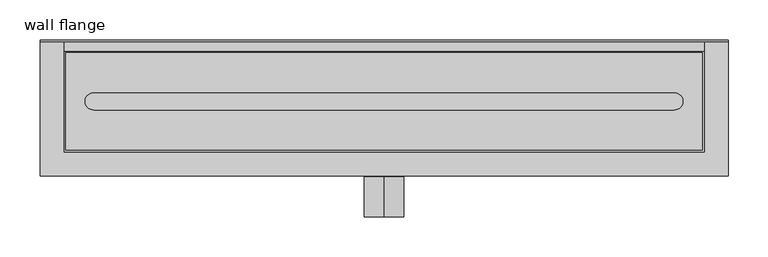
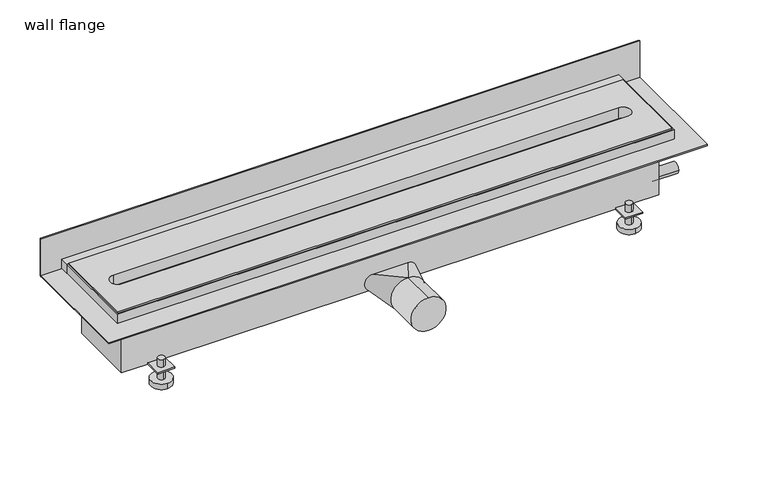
"""IFC4 building model written with IfcOpenShell, lengths in millimetres: sanitary terminal geometry, PF_ST_UN_ShowerDrain X_ACO : wall flange."""

from ifc_helpers import new_model, si_unit, point, frame, frame_2d, origin, origin_with_axes, place, context, project, spatial, polyline, circle_curve, trimmed, segment, composite_curve, outline, extrude, faceted_brep, source, transform, mapped, element, save
from ifc_brep_helpers import plane_surface, cylinder_surface, spline_surface, advanced_brep


def wall_flange_3f105fa3(model_context):
    return source(origin(), model_context, "Body", "SolidModel", [
        advanced_brep(
        [(-336.0, 67.0, -73.0), (-336.0, 57.0, -73.0), (-336.0, 77.0, -111.0), (-336.0, 47.0, -111.0), (-336.0, 67.0, -103.0), (-336.0, 57.0, -103.0), (-336.0, 77.0, -103.0), (-336.0, 47.0, -103.0)],
        [
            (0, 1, circle_curve(frame((-336.0, 62.0, -73.0), z_axis=(0.0, 0.0, 1.0), x_axis=(0.0, -1.0, 0.0)), 5.0)),
            (1, 0, circle_curve(frame((-336.0, 62.0, -73.0), z_axis=(0.0, 0.0, 1.0), x_axis=(0.0, -1.0, 0.0)), 5.0)),
            (2, 3, circle_curve(frame((-336.0, 62.0, -111.0), z_axis=(0.0, 0.0, -1.0), x_axis=(0.0, -1.0, 0.0)), 15.0)),
            (3, 2, circle_curve(frame((-336.0, 62.0, -111.0), z_axis=(0.0, 0.0, -1.0), x_axis=(0.0, -1.0, 0.0)), 15.0)),
            (0, 4),
            (4, 5, circle_curve(frame((-336.0, 62.0, -103.0), z_axis=(0.0, 0.0, 1.0), x_axis=(0.0, -1.0, 0.0)), 5.0)),
            (5, 1),
            (5, 4, circle_curve(frame((-336.0, 62.0, -103.0), z_axis=(0.0, 0.0, 1.0), x_axis=(0.0, -1.0, 0.0)), 5.0)),
            (6, 7, circle_curve(frame((-336.0, 62.0, -103.0), z_axis=(0.0, 0.0, 1.0), x_axis=(0.0, -1.0, 0.0)), 15.0)),
            (7, 6, circle_curve(frame((-336.0, 62.0, -103.0), z_axis=(0.0, 0.0, 1.0), x_axis=(0.0, -1.0, 0.0)), 15.0)),
            (6, 2),
            (3, 7),
        ],
        [
            plane_surface(frame((-336.0, 57.0, -73.0), z_axis=(0.0, 0.0, 1.0), x_axis=(1.0, 0.0, 0.0))),
            plane_surface(frame((-336.0, 57.0, -111.0), z_axis=(0.0, 0.0, -1.0), x_axis=(-1.0, 0.0, 0.0))),
            cylinder_surface(frame((-336.0, 62.0, -111.0), z_axis=(0.0, 0.0, 1.0), x_axis=(0.0, -1.0, 0.0)), 5.0),
            plane_surface(frame((-336.0, 47.0, -103.0), z_axis=(0.0, 0.0, 1.0), x_axis=(1.0, 0.0, 0.0))),
            cylinder_surface(frame((-336.0, 62.0, -111.0), z_axis=(0.0, 0.0, 1.0), x_axis=(0.0, -1.0, 0.0)), 15.0),
        ],
        [
            (0, [[1, 2]]),
            (1, [[3, 4]]),
            (2, [[-1, 5, 6, 7]]),
            (2, [[-2, -7, 8, -5]]),
            (3, [[9, 10], [-6, -8]]),
            (4, [[-9, 11, -4, 12]]),
            (4, [[-10, -12, -3, -11]]),
        ],
    ),
        advanced_brep(
        [(-336.0, -56.5, -73.0), (-336.0, -66.5, -73.0), (-336.0, -46.5, -111.0), (-336.0, -76.5, -111.0), (-336.0, -56.5, -103.0), (-336.0, -66.5, -103.0), (-336.0, -46.5, -103.0), (-336.0, -76.5, -103.0)],
        [
            (0, 1, circle_curve(frame((-336.0, -61.5, -73.0), z_axis=(0.0, 0.0, 1.0), x_axis=(0.0, -1.0, 0.0)), 5.0)),
            (1, 0, circle_curve(frame((-336.0, -61.5, -73.0), z_axis=(0.0, 0.0, 1.0), x_axis=(0.0, -1.0, 0.0)), 5.0)),
            (2, 3, circle_curve(frame((-336.0, -61.5, -111.0), z_axis=(0.0, 0.0, -1.0), x_axis=(0.0, -1.0, 0.0)), 15.0)),
            (3, 2, circle_curve(frame((-336.0, -61.5, -111.0), z_axis=(0.0, 0.0, -1.0), x_axis=(0.0, -1.0, 0.0)), 15.0)),
            (0, 4),
            (4, 5, circle_curve(frame((-336.0, -61.5, -103.0), z_axis=(0.0, 0.0, 1.0), x_axis=(0.0, -1.0, 0.0)), 5.0)),
            (5, 1),
            (5, 4, circle_curve(frame((-336.0, -61.5, -103.0), z_axis=(0.0, 0.0, 1.0), x_axis=(0.0, -1.0, 0.0)), 5.0)),
            (6, 7, circle_curve(frame((-336.0, -61.5, -103.0), z_axis=(0.0, 0.0, 1.0), x_axis=(0.0, -1.0, 0.0)), 15.0)),
            (7, 6, circle_curve(frame((-336.0, -61.5, -103.0), z_axis=(0.0, 0.0, 1.0), x_axis=(0.0, -1.0, 0.0)), 15.0)),
            (6, 2),
            (3, 7),
        ],
        [
            plane_surface(frame((-336.0, 57.0, -73.0), z_axis=(0.0, 0.0, 1.0), x_axis=(1.0, 0.0, 0.0))),
            plane_surface(frame((-336.0, 57.0, -111.0), z_axis=(0.0, 0.0, -1.0), x_axis=(-1.0, 0.0, 0.0))),
            cylinder_surface(frame((-336.0, -61.5, -111.0), z_axis=(0.0, 0.0, 1.0), x_axis=(0.0, -1.0, 0.0)), 5.0),
            plane_surface(frame((-336.0, 47.0, -103.0), z_axis=(0.0, 0.0, 1.0), x_axis=(1.0, 0.0, 0.0))),
            cylinder_surface(frame((-336.0, -61.5, -111.0), z_axis=(0.0, 0.0, 1.0), x_axis=(0.0, -1.0, 0.0)), 15.0),
        ],
        [
            (0, [[1, 2]]),
            (1, [[3, 4]]),
            (2, [[-1, 5, 6, 7]]),
            (2, [[-2, -7, 8, -5]]),
            (3, [[9, 10], [-6, -8]]),
            (4, [[-9, 11, -4, 12]]),
            (4, [[-10, -12, -3, -11]]),
        ],
    ),
        advanced_brep(
        [(336.0, 67.0, -73.0), (336.0, 57.0, -73.0), (336.0, 77.0, -111.0), (336.0, 47.0, -111.0), (336.0, 67.0, -103.0), (336.0, 57.0, -103.0), (336.0, 77.0, -103.0), (336.0, 47.0, -103.0)],
        [
            (0, 1, circle_curve(frame((336.0, 62.0, -73.0), z_axis=(0.0, 0.0, 1.0), x_axis=(0.0, -1.0, 0.0)), 5.0)),
            (1, 0, circle_curve(frame((336.0, 62.0, -73.0), z_axis=(0.0, 0.0, 1.0), x_axis=(0.0, -1.0, 0.0)), 5.0)),
            (2, 3, circle_curve(frame((336.0, 62.0, -111.0), z_axis=(0.0, 0.0, -1.0), x_axis=(0.0, -1.0, 0.0)), 15.0)),
            (3, 2, circle_curve(frame((336.0, 62.0, -111.0), z_axis=(0.0, 0.0, -1.0), x_axis=(0.0, -1.0, 0.0)), 15.0)),
            (0, 4),
            (4, 5, circle_curve(frame((336.0, 62.0, -103.0), z_axis=(0.0, 0.0, 1.0), x_axis=(0.0, -1.0, 0.0)), 5.0)),
            (5, 1),
            (5, 4, circle_curve(frame((336.0, 62.0, -103.0), z_axis=(0.0, 0.0, 1.0), x_axis=(0.0, -1.0, 0.0)), 5.0)),
            (6, 7, circle_curve(frame((336.0, 62.0, -103.0), z_axis=(0.0, 0.0, 1.0), x_axis=(0.0, -1.0, 0.0)), 15.0)),
            (7, 6, circle_curve(frame((336.0, 62.0, -103.0), z_axis=(0.0, 0.0, 1.0), x_axis=(0.0, -1.0, 0.0)), 15.0)),
            (6, 2),
            (3, 7),
        ],
        [
            plane_surface(frame((-336.0, 57.0, -73.0), z_axis=(0.0, 0.0, 1.0), x_axis=(1.0, 0.0, 0.0))),
            plane_surface(frame((-336.0, 57.0, -111.0), z_axis=(0.0, 0.0, -1.0), x_axis=(-1.0, 0.0, 0.0))),
            cylinder_surface(frame((336.0, 62.0, -111.0), z_axis=(0.0, 0.0, 1.0), x_axis=(0.0, -1.0, 0.0)), 5.0),
            plane_surface(frame((-336.0, 47.0, -103.0), z_axis=(0.0, 0.0, 1.0), x_axis=(1.0, 0.0, 0.0))),
            cylinder_surface(frame((336.0, 62.0, -111.0), z_axis=(0.0, 0.0, 1.0), x_axis=(0.0, -1.0, 0.0)), 15.0),
        ],
        [
            (0, [[1, 2]]),
            (1, [[3, 4]]),
            (2, [[-1, 5, 6, 7]]),
            (2, [[-2, -7, 8, -5]]),
            (3, [[9, 10], [-6, -8]]),
            (4, [[-9, 11, -4, 12]]),
            (4, [[-10, -12, -3, -11]]),
        ],
    ),
        advanced_brep(
        [(336.0, -56.5, -73.0), (336.0, -66.5, -73.0), (336.0, -46.5, -111.0), (336.0, -76.5, -111.0), (336.0, -56.5, -103.0), (336.0, -66.5, -103.0), (336.0, -46.5, -103.0), (336.0, -76.5, -103.0)],
        [
            (0, 1, circle_curve(frame((336.0, -61.5, -73.0), z_axis=(0.0, 0.0, 1.0), x_axis=(0.0, -1.0, 0.0)), 5.0)),
            (1, 0, circle_curve(frame((336.0, -61.5, -73.0), z_axis=(0.0, 0.0, 1.0), x_axis=(0.0, -1.0, 0.0)), 5.0)),
            (2, 3, circle_curve(frame((336.0, -61.5, -111.0), z_axis=(0.0, 0.0, -1.0), x_axis=(0.0, -1.0, 0.0)), 15.0)),
            (3, 2, circle_curve(frame((336.0, -61.5, -111.0), z_axis=(0.0, 0.0, -1.0), x_axis=(0.0, -1.0, 0.0)), 15.0)),
            (0, 4),
            (4, 5, circle_curve(frame((336.0, -61.5, -103.0), z_axis=(0.0, 0.0, 1.0), x_axis=(0.0, -1.0, 0.0)), 5.0)),
            (5, 1),
            (5, 4, circle_curve(frame((336.0, -61.5, -103.0), z_axis=(0.0, 0.0, 1.0), x_axis=(0.0, -1.0, 0.0)), 5.0)),
            (6, 7, circle_curve(frame((336.0, -61.5, -103.0), z_axis=(0.0, 0.0, 1.0), x_axis=(0.0, -1.0, 0.0)), 15.0)),
            (7, 6, circle_curve(frame((336.0, -61.5, -103.0), z_axis=(0.0, 0.0, 1.0), x_axis=(0.0, -1.0, 0.0)), 15.0)),
            (6, 2),
            (3, 7),
        ],
        [
            plane_surface(frame((-336.0, 57.0, -73.0), z_axis=(0.0, 0.0, 1.0), x_axis=(1.0, 0.0, 0.0))),
            plane_surface(frame((-336.0, 57.0, -111.0), z_axis=(0.0, 0.0, -1.0), x_axis=(-1.0, 0.0, 0.0))),
            cylinder_surface(frame((336.0, -61.5, -111.0), z_axis=(0.0, 0.0, 1.0), x_axis=(0.0, -1.0, 0.0)), 5.0),
            plane_surface(frame((-336.0, 47.0, -103.0), z_axis=(0.0, 0.0, 1.0), x_axis=(1.0, 0.0, 0.0))),
            cylinder_surface(frame((336.0, -61.5, -111.0), z_axis=(0.0, 0.0, 1.0), x_axis=(0.0, -1.0, 0.0)), 15.0),
        ],
        [
            (0, [[1, 2]]),
            (1, [[3, 4]]),
            (2, [[-1, 5, 6, 7]]),
            (2, [[-2, -7, 8, -5]]),
            (3, [[9, 10], [-6, -8]]),
            (4, [[-9, 11, -4, 12]]),
            (4, [[-10, -12, -3, -11]]),
        ],
    ),
        extrude(outline(polyline([(400.0, 75.0), (400.0, 63.0), (-400.0, 63.0), (-400.0, 75.0), (400.0, 75.0)])), frame((0.0, 0.0, 2.0), z_axis=(0.0, 0.0, 1.0), x_axis=(1.0, 0.0, 0.0)), (0.0, 0.0, 1.0), 14.0),
        extrude(outline(polyline([(430.0, 75.0), (-430.0, 75.0), (-430.0, 77.0), (430.0, 77.0), (430.0, 75.0)])), origin_with_axes(), (0.0, 0.0, 1.0), 57.0),
        advanced_brep(
        [(386.0, 50.0, -86.0), (386.0, -49.0, -86.0), (348.5, -49.0, -86.0), (348.5, -74.0, -86.0), (323.5, -74.0, -86.0), (323.5, -49.0, -86.0), (-323.5, -49.0, -86.0), (-323.5, -74.0, -86.0), (-348.5, -74.0, -86.0), (-348.5, -49.0, -86.0), (-386.0, -49.0, -86.0), (-386.0, 50.0, -86.0), (-348.5, 50.0, -86.0), (-348.5, 74.0, -86.0), (-323.5, 74.0, -86.0), (-323.5, 50.0, -86.0), (323.5, 50.0, -86.0), (323.5, 74.0, -86.0), (348.5, 74.0, -86.0), (348.5, 50.0, -86.0), (386.0, 50.0, -8.0), (-386.0, 50.0, -8.0), (-386.0, -49.0, -8.0), (386.0, -49.0, -8.0), (348.5, 50.0, -84.0), (323.5, 50.0, -84.0), (-323.5, 50.0, -84.0), (-348.5, 50.0, -84.0), (-348.5, -49.0, -84.0), (-323.5, -49.0, -84.0), (323.5, -49.0, -84.0), (348.5, -49.0, -84.0), (386.0, -37.85, -68.0), (386.0, -22.15, -68.0), (386.0, 24.15, -32.0), (386.0, 39.85, -32.0), (421.0, -37.85, -68.0), (421.0, -22.15, -68.0), (421.0, 24.15, -32.0), (421.0, 39.85, -32.0), (-323.5, 74.0, -84.0), (-348.5, 74.0, -84.0), (348.5, 74.0, -84.0), (323.5, 74.0, -84.0), (348.5, -74.0, -84.0), (323.5, -74.0, -84.0), (-348.5, -74.0, -84.0), (-323.5, -74.0, -84.0)],
        [
            (0, 1),
            (1, 2),
            (2, 3),
            (3, 4),
            (4, 5),
            (5, 6),
            (6, 7),
            (7, 8),
            (8, 9),
            (9, 10),
            (10, 11),
            (11, 12),
            (12, 13),
            (13, 14),
            (14, 15),
            (15, 16),
            (16, 17),
            (17, 18),
            (18, 19),
            (19, 0),
            (20, 21),
            (21, 22),
            (22, 23),
            (23, 20),
            (20, 0),
            (19, 24),
            (24, 25),
            (25, 16),
            (15, 26),
            (26, 27),
            (27, 12),
            (11, 21),
            (10, 22),
            (9, 28),
            (28, 29),
            (29, 6),
            (5, 30),
            (30, 31),
            (31, 2),
            (1, 23),
            (32, 33, circle_curve(frame((386.0, -30.0, -68.0), z_axis=(-1.0, 0.0, 0.0), x_axis=(0.0, 1.0, 0.0)), 7.85)),
            (33, 32, circle_curve(frame((386.0, -30.0, -68.0), z_axis=(-1.0, 0.0, 0.0), x_axis=(0.0, 1.0, 0.0)), 7.85)),
            (34, 35, circle_curve(frame((386.0, 32.0, -32.0), z_axis=(-1.0, 0.0, 0.0), x_axis=(0.0, 1.0, 0.0)), 7.85)),
            (35, 34, circle_curve(frame((386.0, 32.0, -32.0), z_axis=(-1.0, 0.0, 0.0), x_axis=(0.0, 1.0, 0.0)), 7.85)),
            (36, 37, circle_curve(frame((421.0, -30.0, -68.0), z_axis=(1.0, 0.0, 0.0), x_axis=(0.0, 1.0, 0.0)), 7.85)),
            (37, 36, circle_curve(frame((421.0, -30.0, -68.0), z_axis=(1.0, 0.0, 0.0), x_axis=(0.0, 1.0, 0.0)), 7.85)),
            (37, 33),
            (32, 36),
            (38, 39, circle_curve(frame((421.0, 32.0, -32.0), z_axis=(1.0, 0.0, 0.0), x_axis=(0.0, 1.0, 0.0)), 7.85)),
            (39, 38, circle_curve(frame((421.0, 32.0, -32.0), z_axis=(1.0, 0.0, 0.0), x_axis=(0.0, 1.0, 0.0)), 7.85)),
            (39, 35),
            (34, 38),
            (40, 41),
            (41, 27),
            (26, 40),
            (42, 43),
            (43, 25),
            (24, 42),
            (44, 31),
            (30, 45),
            (45, 44),
            (46, 47),
            (47, 29),
            (28, 46),
            (40, 14),
            (13, 41),
            (42, 18),
            (17, 43),
            (44, 3),
            (4, 45),
            (46, 8),
            (7, 47),
        ],
        [
            plane_surface(frame((-386.0, 50.0, -86.0), z_axis=(0.0, 0.0, -1.0), x_axis=(1.0, 0.0, 0.0))),
            plane_surface(frame((-386.0, 50.0, -8.0), z_axis=(0.0, 0.0, 1.0), x_axis=(-1.0, 0.0, 0.0))),
            plane_surface(frame((386.0, 50.0, -8.0), z_axis=(0.0, 1.0, 0.0), x_axis=(0.0, 0.0, -1.0))),
            plane_surface(frame((-386.0, 50.0, -8.0), z_axis=(-1.0, 0.0, 0.0), x_axis=(0.0, 0.0, -1.0))),
            plane_surface(frame((-386.0, -49.0, -8.0), z_axis=(0.0, -1.0, 0.0), x_axis=(0.0, 0.0, -1.0))),
            plane_surface(frame((386.0, -49.0, -8.0), z_axis=(1.0, 0.0, 0.0), x_axis=(0.0, 0.0, -1.0))),
            plane_surface(frame((421.0, -30.0, -68.0), z_axis=(1.0, 0.0, 0.0), x_axis=(0.0, 0.0, 1.0))),
            cylinder_surface(frame((0.0, -30.0, -68.0), z_axis=(-1.0, 0.0, 0.0), x_axis=(0.0, 1.0, 0.0)), 7.85),
            plane_surface(frame((421.0, 32.0, -32.0), z_axis=(1.0, 0.0, 0.0), x_axis=(0.0, 0.0, 1.0))),
            cylinder_surface(frame((0.0, 32.0, -32.0), z_axis=(-1.0, 0.0, 0.0), x_axis=(0.0, 1.0, 0.0)), 7.85),
            plane_surface(frame((-348.5, 74.0, -84.0), z_axis=(0.0, 0.0, 1.0), x_axis=(-1.0, 0.0, 0.0))),
            plane_surface(frame((-323.5, 74.0, -84.0), z_axis=(0.0, 1.0, 0.0), x_axis=(0.0, 0.0, -1.0))),
            plane_surface(frame((-348.5, 74.0, -84.0), z_axis=(-1.0, 0.0, 0.0), x_axis=(0.0, 0.0, -1.0))),
            plane_surface(frame((-323.5, 50.0, -84.0), z_axis=(1.0, 0.0, 0.0), x_axis=(0.0, 0.0, -1.0))),
            plane_surface(frame((348.5, 74.0, -84.0), z_axis=(0.0, 1.0, 0.0), x_axis=(0.0, 0.0, -1.0))),
            plane_surface(frame((323.5, 74.0, -84.0), z_axis=(-1.0, 0.0, 0.0), x_axis=(0.0, 0.0, -1.0))),
            plane_surface(frame((348.5, 50.0, -84.0), z_axis=(1.0, 0.0, 0.0), x_axis=(0.0, 0.0, -1.0))),
            plane_surface(frame((348.5, -74.0, -84.0), z_axis=(1.0, 0.0, 0.0), x_axis=(0.0, 0.0, -1.0))),
            plane_surface(frame((323.5, -49.0, -84.0), z_axis=(-1.0, 0.0, 0.0), x_axis=(0.0, 0.0, -1.0))),
            plane_surface(frame((323.5, -74.0, -84.0), z_axis=(0.0, -1.0, 0.0), x_axis=(0.0, 0.0, -1.0))),
            plane_surface(frame((-348.5, -74.0, -84.0), z_axis=(0.0, -1.0, 0.0), x_axis=(0.0, 0.0, -1.0))),
            plane_surface(frame((-323.5, -74.0, -84.0), z_axis=(1.0, 0.0, 0.0), x_axis=(0.0, 0.0, -1.0))),
            plane_surface(frame((-348.5, -49.0, -84.0), z_axis=(-1.0, 0.0, 0.0), x_axis=(0.0, 0.0, -1.0))),
        ],
        [
            (0, [[1, 2, 3, 4, 5, 6, 7, 8, 9, 10, 11, 12, 13, 14, 15, 16, 17, 18, 19, 20]]),
            (1, [[21, 22, 23, 24]]),
            (2, [[-21, 25, -20, 26, 27, 28, -16, 29, 30, 31, -12, 32]]),
            (3, [[-11, 33, -22, -32]]),
            (4, [[-23, -33, -10, 34, 35, 36, -6, 37, 38, 39, -2, 40]]),
            (5, [[-1, -25, -24, -40], [41, 42], [43, 44]]),
            (6, [[45, 46]]),
            (7, [[-46, 47, -41, 48]]),
            (7, [[-45, -48, -42, -47]]),
            (8, [[49, 50]]),
            (9, [[-50, 51, -43, 52]]),
            (9, [[-49, -52, -44, -51]]),
            (10, [[53, 54, -30, 55]]),
            (10, [[56, 57, -27, 58]]),
            (10, [[59, -38, 60, 61]]),
            (10, [[62, 63, -35, 64]]),
            (11, [[-53, 65, -14, 66]]),
            (12, [[-54, -66, -13, -31]]),
            (13, [[-55, -29, -15, -65]]),
            (14, [[-56, 67, -18, 68]]),
            (15, [[-57, -68, -17, -28]]),
            (16, [[-58, -26, -19, -67]]),
            (17, [[-59, 69, -3, -39]]),
            (18, [[-60, -37, -5, 70]]),
            (19, [[-61, -70, -4, -69]]),
            (20, [[-62, 71, -8, 72]]),
            (21, [[-63, -72, -7, -36]]),
            (22, [[-64, -34, -9, -71]]),
        ],
    ),
        extrude(outline(polyline([(398.0, 61.0), (398.0, -61.0), (-398.0, -61.0), (-398.0, 61.0), (398.0, 61.0)]), holes=[composite_curve([segment(polyline([(363.0860312, 10.6770786), (-363.0900069, 10.6770786)]), True, "CONTINUOUS"), segment(trimmed(circle_curve(frame_2d((-363.0900069, 0.0)), 10.6770786), [point((-363.0900069, 10.6770786))], [point((-363.0900069, -10.6770786))], True, "CARTESIAN"), True, "CONTINUOUS"), segment(polyline([(-363.0900069, -10.6770786), (363.0860312, -10.6770786)]), True, "CONTINUOUS"), segment(trimmed(circle_curve(frame_2d((363.0860312, 0.0)), 10.6770786), [point((363.0860312, -10.6770786))], [point((363.0860312, 10.6770786))], True, "CARTESIAN"), True, "CONTINUOUS")], self_intersect=False)]), origin_with_axes(), (0.0, 0.0, 1.0), 18.0),
        advanced_brep(
        [(0.0, -144.5, -99.0), (0.0, -144.5, -49.0), (0.0, -94.5, -99.0), (13.0, -94.5, -95.3541565), (13.0005627, -94.5, -52.6461861), (0.0, -94.5, -49.0), (-13.0, -94.5, -52.6458435), (-13.0, -94.5, -95.3541565), (25.0, -50.0, -86.0), (-25.0, -50.0, -86.0), (-25.0, -50.0, -62.0), (25.0, -50.0, -62.0)],
        [
            (0, 1, circle_curve(frame((0.0, -144.5, -74.0), z_axis=(0.0, -1.0, 0.0), x_axis=(0.0, 0.0, 1.0)), 25.0)),
            (1, 0, circle_curve(frame((0.0, -144.5, -74.0), z_axis=(0.0, -1.0, 0.0), x_axis=(0.0, 0.0, 1.0)), 25.0)),
            (0, 2),
            (2, 3, circle_curve(frame((0.0, -94.5, -74.0), z_axis=(0.0, -1.0, 0.0), x_axis=(0.0, 0.0, 1.0)), 25.0)),
            (3, 4, circle_curve(frame((0.0, -94.5, -74.0), z_axis=(0.0, -1.0, 0.0), x_axis=(0.0, 0.0, 1.0)), 25.0)),
            (4, 5, circle_curve(frame((0.0, -94.5, -74.0), z_axis=(0.0, -1.0, 0.0), x_axis=(0.0, 0.0, 1.0)), 25.0)),
            (5, 1),
            (5, 6, circle_curve(frame((0.0, -94.5, -74.0), z_axis=(0.0, -1.0, 0.0), x_axis=(0.0, 0.0, 1.0)), 25.0)),
            (6, 7, circle_curve(frame((0.0, -94.5, -74.0), z_axis=(0.0, -1.0, 0.0), x_axis=(0.0, 0.0, 1.0)), 25.0)),
            (7, 2, circle_curve(frame((0.0, -94.5, -74.0), z_axis=(0.0, -1.0, 0.0), x_axis=(0.0, 0.0, 1.0)), 25.0)),
            (8, 9),
            (9, 10, circle_curve(frame((-25.0, -50.0, -74.0), z_axis=(0.0, 1.0, 0.0), x_axis=(0.0, 0.0, 1.0)), 12.0)),
            (10, 11),
            (11, 8, circle_curve(frame((25.0, -50.0, -74.0), z_axis=(0.0, 1.0, 0.0), x_axis=(0.0, 0.0, 1.0)), 12.0)),
            (8, 2),
            (2, 9),
            (5, 10),
            (5, 11),
        ],
        [
            plane_surface(frame((0.0, -144.5, -74.0), z_axis=(0.0, -1.0, 0.0), x_axis=(1.0, 0.0, 0.0))),
            cylinder_surface(frame((0.0, -144.5, -74.0), z_axis=(0.0, -1.0, 0.0), x_axis=(0.0, 0.0, 1.0)), 25.0),
            plane_surface(frame((0.0, -50.0, -74.0), z_axis=(0.0, 1.0, 0.0), x_axis=(-1.0, 0.0, 0.0))),
            plane_surface(frame((0.0, -94.5, -99.0), z_axis=(0.0, 0.2804141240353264, -0.9598791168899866), x_axis=(-1.0, 0.0, 0.0))),
            spline_surface(2, 1, [[(0.0, -94.5, -99.0), (-25.0, -50.0, -86.0)], [(-25.0, -94.5, -99.0), (-37.0, -50.0, -86.0)], [(-25.0, -94.5, -74.0), (-37.0, -50.0, -74.0)], [(-25.0, -94.5, -49.0), (-37.0, -50.0, -62.0)], [(0.0, -94.5, -49.0), (-25.0, -50.0, -62.0)]], [3, 2, 3], [2, 2], [0.0, 1.0, 2.0], [0.0, 1.0], weights=[[1.0, 1.0], [0.7071067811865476, 0.7071067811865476], [1.0, 1.0], [0.7071067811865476, 0.7071067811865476], [1.0, 1.0]]),
            plane_surface(frame((0.0, -94.5, -49.0), z_axis=(0.0, 0.2804141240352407, 0.9598791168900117), x_axis=(1.0, 0.0, 0.0))),
            spline_surface(2, 1, [[(0.0, -94.5, -49.0), (25.0, -50.0, -62.0)], [(25.0, -94.5, -49.0), (37.0, -50.0, -62.0)], [(25.0, -94.5, -74.0), (37.0, -50.0, -74.0)], [(25.0, -94.5, -99.0), (37.0, -50.0, -86.0)], [(0.0, -94.5, -99.0), (25.0, -50.0, -86.0)]], [3, 2, 3], [2, 2], [0.0, 1.0, 2.0], [0.0, 1.0], weights=[[1.0, 1.0], [0.7071067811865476, 0.7071067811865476], [1.0, 1.0], [0.7071067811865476, 0.7071067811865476], [1.0, 1.0]]),
        ],
        [
            (0, [[1, 2]]),
            (1, [[-1, 3, 4, 5, 6, 7]]),
            (1, [[-2, -7, 8, 9, 10, -3]]),
            (2, [[11, 12, 13, 14]]),
            (3, [[-11, 15, 16]]),
            (4, [[-12, -16, -10, -9, -8, 17]]),
            (5, [[-13, -17, 18]]),
            (6, [[-14, -18, -6, -5, -4, -15]]),
        ],
    ),
        extrude(outline(polyline([(430.0, 77.0), (430.0, -93.0), (-430.0, -93.0), (-430.0, 77.0), (430.0, 77.0)])), origin_with_axes(), (0.0, 0.0, 1.0), 2.0),
        faceted_brep([(400.0, 63.0, 16.0), (-400.0, 63.0, 16.0), (-400.0, -63.0, 16.0), (400.0, -63.0, 16.0), (-398.0, 61.0, 16.0), (398.0, 61.0, 16.0), (398.0, -61.0, 16.0), (-398.0, -61.0, 16.0), (400.0, 63.0, -8.0), (400.0, -63.0, -8.0), (-400.0, -63.0, -8.0), (-400.0, 63.0, -8.0), (398.0, 61.0, -6.0), (-398.0, 61.0, -6.0), (-398.0, -61.0, -6.0), (398.0, -61.0, -6.0)], [[[0, 1, 2, 3], [4, 5, 6, 7]], [[8, 9, 10, 11]], [[1, 0, 8, 11]], [[2, 1, 11, 10]], [[3, 2, 10, 9]], [[0, 3, 9, 8]], [[12, 13, 14, 15]], [[13, 12, 5, 4]], [[14, 13, 4, 7]], [[15, 14, 7, 6]], [[12, 15, 6, 5]]]),
    ])


if __name__ == "__main__":
    model = new_model("IFC4")
    model_context = context("Model", 3, world=origin())
    ifc_project = project(units=[si_unit("LENGTHUNIT", "METRE", prefix="MILLI")], contexts=[model_context])
    site = spatial("IfcSite", under=ifc_project)
    building = spatial("IfcBuilding", under=site)
    placement = place(None, origin())
    wall_flange_shape = wall_flange_3f105fa3(model_context)
    element("IfcSanitaryTerminal", 1, ObjectType="PF_ST_UN_ShowerDrain X_ACO : wall flange", at=placement, inside=building, context=model_context, shape_type="MappedRepresentation", body=[
        mapped(wall_flange_shape, transform((0.0, 0.0, 0.0), x_axis=(1.0, 0.0, 0.0), y_axis=(0.0, 1.0, 0.0), z_axis=(0.0, 0.0, 1.0))),
    ])
    save(model, "model.ifc")
